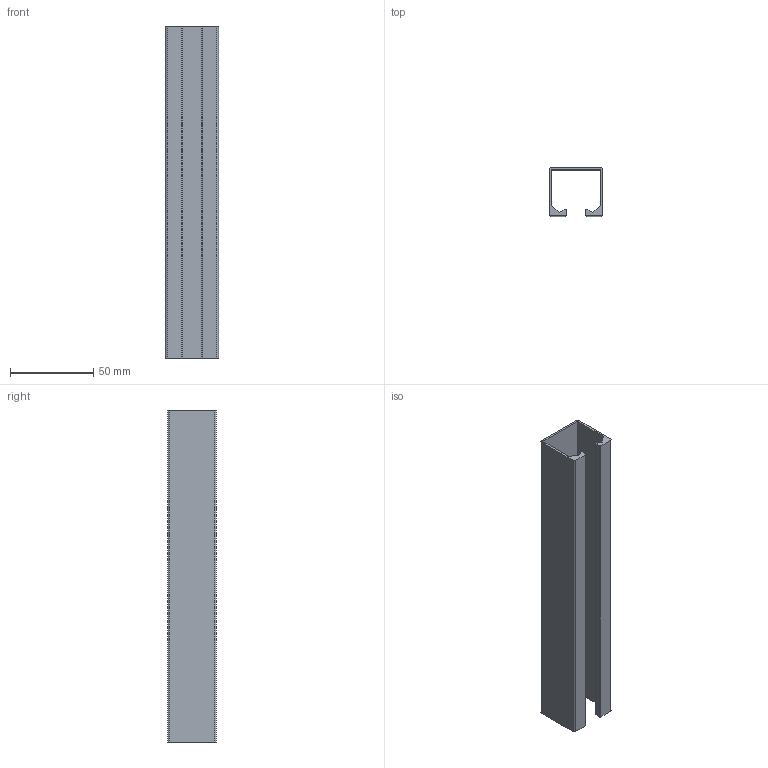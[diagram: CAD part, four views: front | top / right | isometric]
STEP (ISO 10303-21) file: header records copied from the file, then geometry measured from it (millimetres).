
FILE_DESCRIPTION(/* description */ (''),/* implementation_level */ '2;1');
FILE_NAME(/* name */ 'C:\Users\Owner\Documents\硯聰\Inv材料庫-3D新型錄-2019整理\07.共用配件\拉門配件\戰車輪軌道.stp',/* time_stamp */ '2019-03-18T10:16:14+08:00',/* author */ ('Owner'),/* organization */ (''),/* preprocessor_version */ 'ST-DEVELOPER v16.1',/* originating_system */ 'Autodesk Inventor 2016',/* authorisation */ '');
FILE_SCHEMA (('AUTOMOTIVE_DESIGN { 1 0 10303 214 3 1 1 }'));
Length unit declared in the file: millimetre
Products named in the file (1): 零件31
Bounding box: 32 x 29.2 x 200 mm (x, y, z)
Volume: 34073.4 mm3; surface area: 42447 mm2
Topology: 1 solids, 1 shells, 24 faces, 66 edges, 44 vertices
Faces by surface type: plane 16, cylinder 8
Entity records: 790 total; most frequent: CARTESIAN_POINT 135, ORIENTED_EDGE 132, DIRECTION 132, EDGE_CURVE 66, LINE 50, VECTOR 50, VERTEX_POINT 44, AXIS2_PLACEMENT_3D 41
